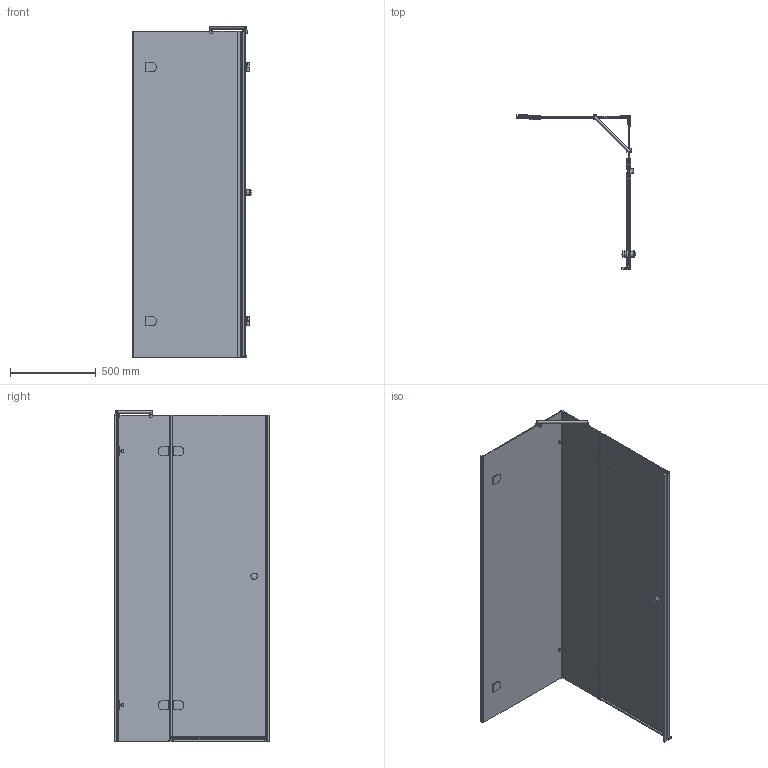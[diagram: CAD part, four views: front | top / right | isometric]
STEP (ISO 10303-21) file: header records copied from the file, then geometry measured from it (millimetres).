
FILE_DESCRIPTION(/* description */ (''),/* implementation_level */ '2;1');
FILE_NAME(/* name */ 'E:\Работа\Сергей\Душевые кабинки\! Работа\36\LUX SQUARE GK-883PGS-2522\LUX SQUARE GK-883PGS-2522 правая модель\LUX SQUARE GK-883PGS-2522 ПРАВАЯ-3D.stp',/* time_stamp */ '2018-02-17T11:10:28+03:00',/* author */ ('PC'),/* organization */ (''),/* preprocessor_version */ 'ST-DEVELOPER v15.2',/* originating_system */ 'Autodesk Inventor 2014',/* authorisation */ '');
FILE_SCHEMA (('AUTOMOTIVE_DESIGN { 1 0 10303 214 3 1 1 }'));
Length unit declared in the file: millimetre
Products named in the file (1): LUX SQUARE GK-883PGS-2522 \X2\041F0420041004120410042F
\X0\-3D
Bounding box: 694.36 x 904.6 x 1926 mm (x, y, z)
Volume: 19022117.8 mm3; surface area: 6608335.5 mm2
Topology: 3 solids, 3 shells, 689 faces, 1729 edges, 1081 vertices
Faces by surface type: plane 479, cylinder 183, torus 11, sphere 7, bspline 5, cone 4
Full cylindrical faces by diameter (mm): 8 x4, 11 x4, 12 x2, 15 x1, 18 x4, 20 x2, 38 x4
Entity records: 21207 total; most frequent: CARTESIAN_POINT 4096, DIRECTION 3364, ORIENTED_EDGE 3356, EDGE_CURVE 1675, LINE 1242, VECTOR 1242, VERTEX_POINT 1061, AXIS2_PLACEMENT_3D 1061
